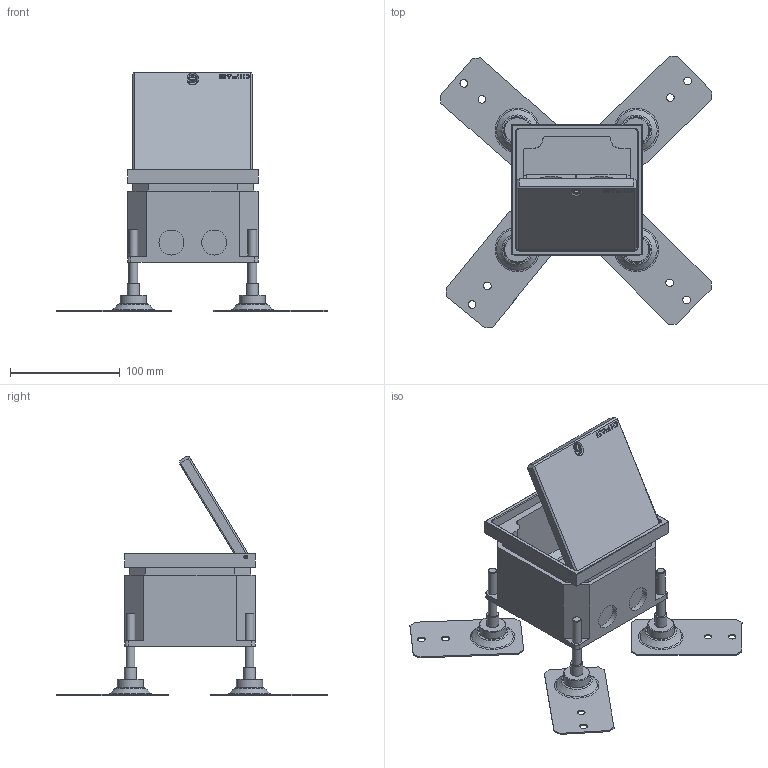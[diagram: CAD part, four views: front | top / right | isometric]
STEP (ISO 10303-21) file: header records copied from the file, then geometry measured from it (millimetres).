
FILE_DESCRIPTION(/* description */ (''),/* implementation_level */ '2;1');
FILE_NAME(/* name */ 'K:\Inventor\Dummy Zeichnungen Bodendosen\FONTO.4290.OPEN.stp',/* time_stamp */ '2019-05-13T13:21:24+02:00',/* author */ ('mayrhofer'),/* organization */ ('GIFAS'),/* preprocessor_version */ 'ST-DEVELOPER v17.2',/* originating_system */ 'Autodesk Inventor 2019',/* authorisation */ '');
FILE_SCHEMA (('AUTOMOTIVE_DESIGN { 1 0 10303 214 3 1 1 }'));
Length unit declared in the file: millimetre
Products named in the file (9): FONTO.4290; Kokille_42xx43xx; Deckel_4290; ISO 8752 - 3 x 16; Nivellierfuß; 1533631_3DINV; BS 4183 - M5 x 6; Dichtung FONTO 4290; 309.LEG.45°.BS.MOSAIC.WEISS.2MOD.
Assembly tree (14 placements, depth 2):
  FONTO.4290
    Kokille_42xx43xx
    Deckel_4290
    ISO 8752 - 3 x 16  x2
    Nivellierfuß  x4
    1533631_3DINV
    BS 4183 - M5 x 6  x2
    Dichtung FONTO 4290
    309.LEG.45°.BS.MOSAIC.WEISS.2MOD.  x2
Bounding box: 247.92 x 247.74 x 218.61 mm (x, y, z)
Volume: 761090.8 mm3; surface area: 241523.1 mm2
Topology: 14 solids, 14 shells, 582 faces, 1464 edges, 960 vertices
Faces by surface type: plane 335, cylinder 135, cone 56, torus 37, bspline 15, sphere 4
Full cylindrical faces by diameter (mm): 0.1 x2, 3 x2, 3.5 x14, 4.019 x2, 5 x6, 6 x2, 6.647 x4, 6.7 x1, 7 x8, 8 x4, 8.75 x2, 11 x4, 22.835 x2, 24 x4, 39 x2
Entity records: 12272 total; most frequent: CARTESIAN_POINT 2542, ORIENTED_EDGE 1932, DIRECTION 1932, EDGE_CURVE 966, AXIS2_PLACEMENT_3D 658, VERTEX_POINT 637, LINE 616, VECTOR 616
